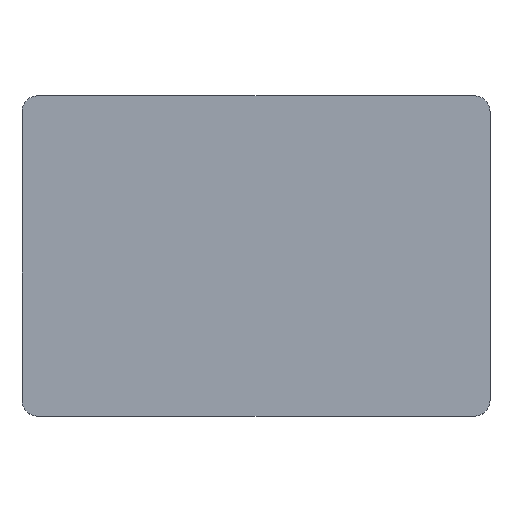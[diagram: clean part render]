
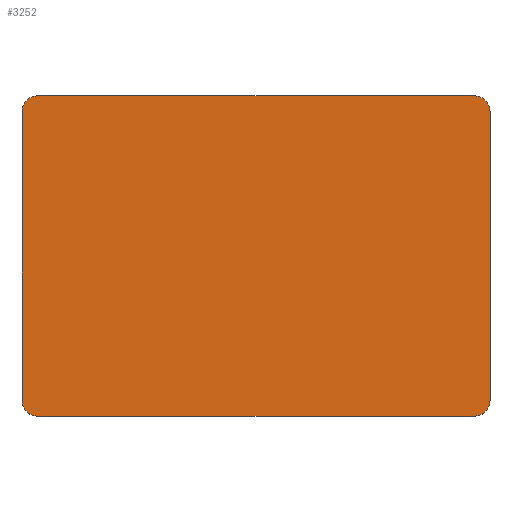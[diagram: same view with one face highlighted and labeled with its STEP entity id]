
A CAD part, top view. The second image highlights one B-rep face of the part: STEP entity #3252.
In plain terms, the highlighted planar face has unit normal (0, 0, 1).
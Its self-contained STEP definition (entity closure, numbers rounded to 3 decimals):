
#36 = EDGE_CURVE ( 'NONE', #3311, #1591, #4135, .T. ) ;
#47 = CARTESIAN_POINT ( 'NONE',  ( 131.684, 81.125, 0. ) ) ;
#76 = CARTESIAN_POINT ( 'NONE',  ( -131.684, 90.125, 0. ) ) ;
#85 = AXIS2_PLACEMENT_3D ( 'NONE', #6901, #5135, #2956 ) ;
#147 = CARTESIAN_POINT ( 'NONE',  ( 131.684, 90.125, 0. ) ) ;
#164 = DIRECTION ( 'NONE',  ( 1., 0., 0. ) ) ;
#229 = CARTESIAN_POINT ( 'NONE',  ( 122.683, 90.125, 0. ) ) ;
#246 = AXIS2_PLACEMENT_3D ( 'NONE', #4610, #5159, #5132 ) ;
#554 = DIRECTION ( 'NONE',  ( 1., 0., 0. ) ) ;
#627 = FACE_OUTER_BOUND ( 'NONE', #3290, .T. ) ;
#644 = ORIENTED_EDGE ( 'NONE', *, *, #3958, .T. ) ;
#769 = EDGE_CURVE ( 'Edge32', #2891, #1683, #5831, .T. ) ;
#1010 = DIRECTION ( 'NONE',  ( 1., 0., 0. ) ) ;
#1154 = ORIENTED_EDGE ( 'NONE', *, *, #36, .T. ) ;
#1355 = CARTESIAN_POINT ( 'NONE',  ( -122.684, -90.125, 0. ) ) ;
#1359 = ORIENTED_EDGE ( 'NONE', *, *, #769, .T. ) ;
#1529 = ORIENTED_EDGE ( 'NONE', *, *, #6707, .T. ) ;
#1591 = VERTEX_POINT ( 'NONE', #3900 ) ;
#1683 = VERTEX_POINT ( 'NONE', #229 ) ;
#2179 = EDGE_CURVE ( 'NONE', #4627, #3311, #4821, .T. ) ;
#2267 = CIRCLE ( 'NONE', #3806, 9. ) ;
#2360 = CARTESIAN_POINT ( 'NONE',  ( -131.684, 90.125, 0. ) ) ;
#2647 = VERTEX_POINT ( 'NONE', #4779 ) ;
#2725 = CARTESIAN_POINT ( 'NONE',  ( 122.684, 81.125, 0. ) ) ;
#2891 = VERTEX_POINT ( 'NONE', #47 ) ;
#2924 = VECTOR ( 'NONE', #6947, 1000. ) ;
#2956 = DIRECTION ( 'NONE',  ( 1., 0., 0. ) ) ;
#2971 = VECTOR ( 'NONE', #4701, 1000. ) ;
#3022 = CARTESIAN_POINT ( 'NONE',  ( -122.684, -81.125, 0. ) ) ;
#3169 = CARTESIAN_POINT ( 'NONE',  ( 122.683, -90.125, 0. ) ) ;
#3249 = CARTESIAN_POINT ( 'NONE',  ( -131.684, -81.125, 0. ) ) ;
#3252 = ADVANCED_FACE ( 'Face2', ( #627 ), #5994, .T. ) ;
#3290 = EDGE_LOOP ( 'NONE', ( #6566, #1529, #644, #3376, #4224, #1154, #3533, #1359 ) ) ;
#3311 = VERTEX_POINT ( 'NONE', #3169 ) ;
#3376 = ORIENTED_EDGE ( 'NONE', *, *, #5683, .T. ) ;
#3533 = ORIENTED_EDGE ( 'NONE', *, *, #4005, .T. ) ;
#3806 = AXIS2_PLACEMENT_3D ( 'NONE', #6190, #6725, #1010 ) ;
#3900 = CARTESIAN_POINT ( 'NONE',  ( 131.684, -81.125, 0. ) ) ;
#3906 = CIRCLE ( 'NONE', #5820, 9. ) ;
#3915 = AXIS2_PLACEMENT_3D ( 'NONE', #2725, #4466, #554 ) ;
#3958 = EDGE_CURVE ( 'NONE', #2647, #7321, #5943, .T. ) ;
#4005 = EDGE_CURVE ( 'NONE', #1591, #2891, #6406, .T. ) ;
#4135 = CIRCLE ( 'NONE', #85, 9. ) ;
#4224 = ORIENTED_EDGE ( 'NONE', *, *, #2179, .T. ) ;
#4466 = DIRECTION ( 'NONE',  ( 0., 0., 1. ) ) ;
#4610 = CARTESIAN_POINT ( 'NONE',  ( 0., 0., 0. ) ) ;
#4627 = VERTEX_POINT ( 'NONE', #1355 ) ;
#4692 = DIRECTION ( 'NONE',  ( 0., 1., 0. ) ) ;
#4701 = DIRECTION ( 'NONE',  ( -1., 0., 0. ) ) ;
#4779 = CARTESIAN_POINT ( 'NONE',  ( -131.684, 81.125, 0. ) ) ;
#4821 = LINE ( 'NONE', #5976, #6188 ) ;
#5132 = DIRECTION ( 'NONE',  ( 1., 0., 0. ) ) ;
#5135 = DIRECTION ( 'NONE',  ( 0., 0., 1. ) ) ;
#5159 = DIRECTION ( 'NONE',  ( 0., 0., 1. ) ) ;
#5370 = VERTEX_POINT ( 'NONE', #6502 ) ;
#5651 = VECTOR ( 'NONE', #4692, 1000. ) ;
#5683 = EDGE_CURVE ( 'NONE', #7321, #4627, #3906, .T. ) ;
#5806 = LINE ( 'NONE', #76, #2971 ) ;
#5820 = AXIS2_PLACEMENT_3D ( 'NONE', #3022, #7061, #164 ) ;
#5831 = CIRCLE ( 'NONE', #3915, 9. ) ;
#5943 = LINE ( 'NONE', #2360, #2924 ) ;
#5951 = EDGE_CURVE ( 'NONE', #1683, #5370, #5806, .T. ) ;
#5976 = CARTESIAN_POINT ( 'NONE',  ( -131.684, -90.125, 0. ) ) ;
#5994 = PLANE ( 'NONE',  #246 ) ;
#6188 = VECTOR ( 'NONE', #7221, 1000. ) ;
#6190 = CARTESIAN_POINT ( 'NONE',  ( -122.684, 81.125, 0. ) ) ;
#6406 = LINE ( 'NONE', #147, #5651 ) ;
#6502 = CARTESIAN_POINT ( 'NONE',  ( -122.684, 90.125, 0. ) ) ;
#6566 = ORIENTED_EDGE ( 'NONE', *, *, #5951, .T. ) ;
#6707 = EDGE_CURVE ( 'Edge4', #5370, #2647, #2267, .T. ) ;
#6725 = DIRECTION ( 'NONE',  ( 0., 0., 1. ) ) ;
#6901 = CARTESIAN_POINT ( 'NONE',  ( 122.683, -81.125, 0. ) ) ;
#6947 = DIRECTION ( 'NONE',  ( 0., -1., 0. ) ) ;
#7061 = DIRECTION ( 'NONE',  ( 0., 0., 1. ) ) ;
#7221 = DIRECTION ( 'NONE',  ( 1., 0., 0. ) ) ;
#7321 = VERTEX_POINT ( 'NONE', #3249 ) ;
